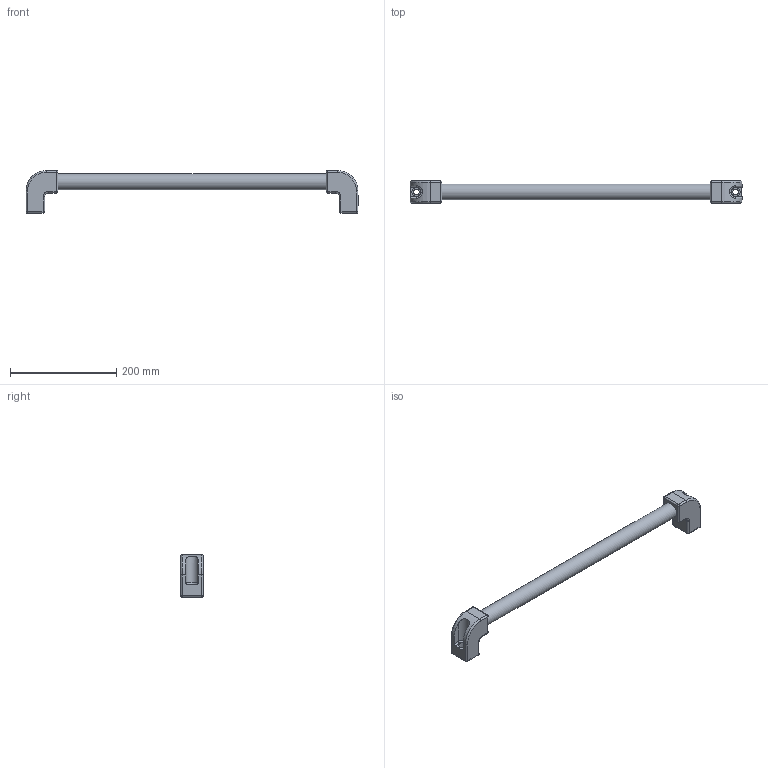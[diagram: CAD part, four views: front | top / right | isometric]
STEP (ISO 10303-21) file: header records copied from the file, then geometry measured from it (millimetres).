
FILE_DESCRIPTION( ('This file contains a STEP AP42 implementation' ,'as created by ZW3D STEP Interface translator.') ,'2;1' );
FILE_NAME( 'R30-600.stp' ,'26 817.123312', (''), ('ZWCAD Software Co.'), 'Version 1.0', 'ZW3D to STEP translator', '' );
FILE_SCHEMA(('AP242_MANAGED_MODEL_BASED_3D_ENGINEERING_MIM_LF { 1 0 10303 442 1 1 4 }'));
Length unit declared in the file: millimetre
Products named in the file (1): 0
Bounding box: 624 x 42 x 80 mm (x, y, z)
Volume: 312616.2 mm3; surface area: 139912.6 mm2
Topology: 3 solids, 3 shells, 104 faces, 216 edges, 122 vertices
Faces by surface type: cylinder 50, plane 28, sphere 16, torus 10
Full cylindrical faces by diameter (mm): 10.5 x2, 17 x2, 26 x1, 30 x3
Entity records: 2885 total; most frequent: DIRECTION 538, CARTESIAN_POINT 467, ORIENTED_EDGE 428, AXIS2_PLACEMENT_3D 219, EDGE_CURVE 214, VERTEX_POINT 120, CIRCLE 114, EDGE_LOOP 114
